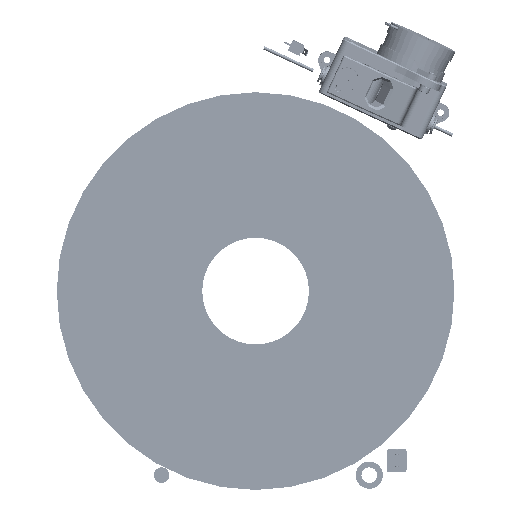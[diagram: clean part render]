
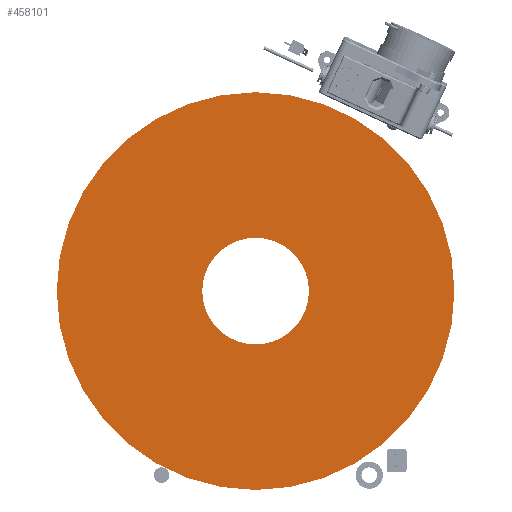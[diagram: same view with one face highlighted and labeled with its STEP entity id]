
A CAD part, front view. The second image highlights one B-rep face of the part: STEP entity #458101.
In plain terms, the highlighted planar face has unit normal (0, -1, 0).
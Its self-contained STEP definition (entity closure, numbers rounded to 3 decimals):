
#457992 = CYLINDRICAL_SURFACE('',#457993,102.5);
#457993 = AXIS2_PLACEMENT_3D('',#457994,#457995,#457996);
#457994 = CARTESIAN_POINT('',(-6.072,-39.,3.354));
#457995 = DIRECTION('',(0.,1.,0.));
#457996 = DIRECTION('',(0.,-0.,1.));
#458017 = VERTEX_POINT('',#458018);
#458018 = CARTESIAN_POINT('',(-6.072,-39.,105.854));
#458039 = EDGE_CURVE('',#458017,#458017,#458040,.T.);
#458040 = SURFACE_CURVE('',#458041,(#458046,#458053),.PCURVE_S1.);
#458041 = CIRCLE('',#458042,102.5);
#458042 = AXIS2_PLACEMENT_3D('',#458043,#458044,#458045);
#458043 = CARTESIAN_POINT('',(-6.072,-39.,3.354));
#458044 = DIRECTION('',(0.,1.,0.));
#458045 = DIRECTION('',(0.,-0.,1.));
#458046 = PCURVE('',#457992,#458047);
#458047 = DEFINITIONAL_REPRESENTATION('',(#458048),#458052);
#458048 = LINE('',#458049,#458050);
#458049 = CARTESIAN_POINT('',(0.,0.));
#458050 = VECTOR('',#458051,1.);
#458051 = DIRECTION('',(1.,0.));
#458052 = ( GEOMETRIC_REPRESENTATION_CONTEXT(2) PARAMETRIC_REPRESENTATION_CONTEXT() REPRESENTATION_CONTEXT('2D SPACE','' ) );
#458053 = PCURVE('',#458054,#458059);
#458054 = PLANE('',#458055);
#458055 = AXIS2_PLACEMENT_3D('',#458056,#458057,#458058);
#458056 = CARTESIAN_POINT('',(-6.072,-39.,3.354));
#458057 = DIRECTION('',(0.,1.,0.));
#458058 = DIRECTION('',(0.,-0.,1.));
#458059 = DEFINITIONAL_REPRESENTATION('',(#458060),#458064);
#458060 = CIRCLE('',#458061,102.5);
#458061 = AXIS2_PLACEMENT_2D('',#458062,#458063);
#458062 = CARTESIAN_POINT('',(0.,0.));
#458063 = DIRECTION('',(1.,0.));
#458064 = ( GEOMETRIC_REPRESENTATION_CONTEXT(2) PARAMETRIC_REPRESENTATION_CONTEXT() REPRESENTATION_CONTEXT('2D SPACE','' ) );
#458101 = ADVANCED_FACE('',(#458102,#458105),#458054,.F.);
#458102 = FACE_BOUND('',#458103,.F.);
#458103 = EDGE_LOOP('',(#458104));
#458104 = ORIENTED_EDGE('',*,*,#458039,.T.);
#458105 = FACE_BOUND('',#458106,.F.);
#458106 = EDGE_LOOP('',(#458107));
#458107 = ORIENTED_EDGE('',*,*,#458108,.F.);
#458108 = EDGE_CURVE('',#458109,#458109,#458111,.T.);
#458109 = VERTEX_POINT('',#458110);
#458110 = CARTESIAN_POINT('',(-6.072,-39.,30.854));
#458111 = SURFACE_CURVE('',#458112,(#458117,#458124),.PCURVE_S1.);
#458112 = CIRCLE('',#458113,27.5);
#458113 = AXIS2_PLACEMENT_3D('',#458114,#458115,#458116);
#458114 = CARTESIAN_POINT('',(-6.072,-39.,3.354));
#458115 = DIRECTION('',(0.,1.,0.));
#458116 = DIRECTION('',(0.,-0.,1.));
#458117 = PCURVE('',#458054,#458118);
#458118 = DEFINITIONAL_REPRESENTATION('',(#458119),#458123);
#458119 = CIRCLE('',#458120,27.5);
#458120 = AXIS2_PLACEMENT_2D('',#458121,#458122);
#458121 = CARTESIAN_POINT('',(0.,0.));
#458122 = DIRECTION('',(1.,0.));
#458123 = ( GEOMETRIC_REPRESENTATION_CONTEXT(2) PARAMETRIC_REPRESENTATION_CONTEXT() REPRESENTATION_CONTEXT('2D SPACE','' ) );
#458124 = PCURVE('',#458125,#458130);
#458125 = CYLINDRICAL_SURFACE('',#458126,27.5);
#458126 = AXIS2_PLACEMENT_3D('',#458127,#458128,#458129);
#458127 = CARTESIAN_POINT('',(-6.072,-40.,3.354));
#458128 = DIRECTION('',(0.,1.,0.));
#458129 = DIRECTION('',(0.,-0.,1.));
#458130 = DEFINITIONAL_REPRESENTATION('',(#458131),#458135);
#458131 = LINE('',#458132,#458133);
#458132 = CARTESIAN_POINT('',(0.,1.));
#458133 = VECTOR('',#458134,1.);
#458134 = DIRECTION('',(1.,0.));
#458135 = ( GEOMETRIC_REPRESENTATION_CONTEXT(2) PARAMETRIC_REPRESENTATION_CONTEXT() REPRESENTATION_CONTEXT('2D SPACE','' ) );
